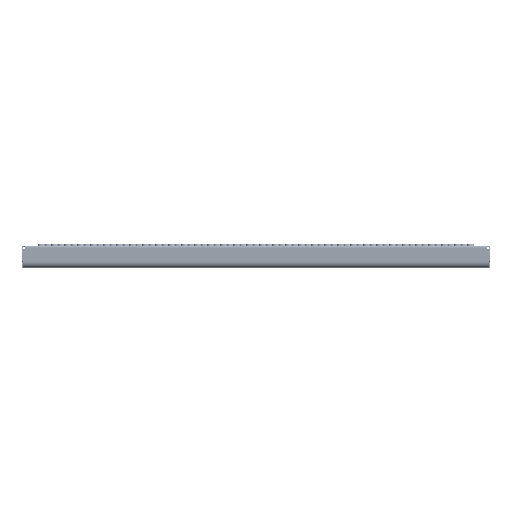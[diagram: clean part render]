
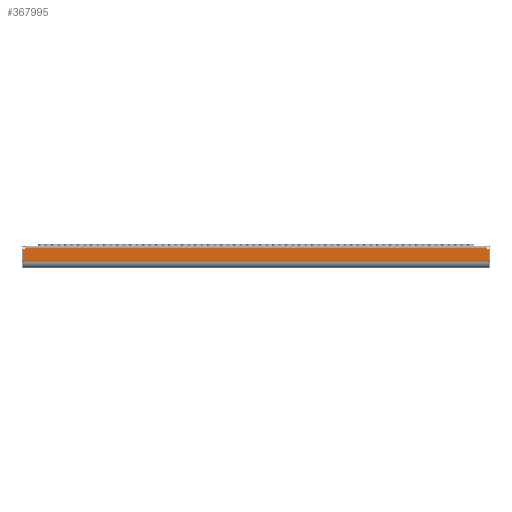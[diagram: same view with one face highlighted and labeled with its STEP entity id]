
A CAD part, top view. The second image highlights one B-rep face of the part: STEP entity #367995.
In plain terms, the highlighted planar face has unit normal (0, 0, 1).
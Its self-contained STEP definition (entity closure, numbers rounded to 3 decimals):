
#4417 = CARTESIAN_POINT ( 'NONE',  ( 444.302, -4., 125. ) ) ;
#9744 = DIRECTION ( 'NONE',  ( 0., 0., 1. ) ) ;
#11573 = ORIENTED_EDGE ( 'NONE', *, *, #324710, .T. ) ;
#12431 = DIRECTION ( 'NONE',  ( 0., 0., -1. ) ) ;
#12515 = VECTOR ( 'NONE', #47345, 1000. ) ;
#15731 = EDGE_CURVE ( 'NONE', #126914, #154343, #389230, .T. ) ;
#17930 = DIRECTION ( 'NONE',  ( 0., -1., 0. ) ) ;
#34323 = DIRECTION ( 'NONE',  ( 1., 0., 0. ) ) ;
#40289 = CARTESIAN_POINT ( 'NONE',  ( 449., -2.288, 125. ) ) ;
#40667 = FACE_OUTER_BOUND ( 'NONE', #195369, .T. ) ;
#42560 = CARTESIAN_POINT ( 'NONE',  ( -447.99, -7.185, 125. ) ) ;
#42715 = CARTESIAN_POINT ( 'NONE',  ( -447.99, -7.185, 125. ) ) ;
#47345 = DIRECTION ( 'NONE',  ( 0., 1., 0. ) ) ;
#59427 = AXIS2_PLACEMENT_3D ( 'NONE', #40289, #347199, #165891 ) ;
#78746 = AXIS2_PLACEMENT_3D ( 'NONE', #362465, #12431, #109215 ) ;
#109215 = DIRECTION ( 'NONE',  ( 0., -1., 0. ) ) ;
#114083 = AXIS2_PLACEMENT_3D ( 'NONE', #291878, #9744, #261038 ) ;
#126914 = VERTEX_POINT ( 'NONE', #177863 ) ;
#128068 = EDGE_CURVE ( 'NONE', #193826, #162172, #291319, .T. ) ;
#130814 = EDGE_CURVE ( 'NONE', #154343, #162172, #151694, .T. ) ;
#132798 = DIRECTION ( 'NONE',  ( 1., 0., 0. ) ) ;
#136804 = EDGE_CURVE ( 'NONE', #193826, #319216, #256297, .T. ) ;
#138318 = CARTESIAN_POINT ( 'NONE',  ( 447.99, -7.185, 125. ) ) ;
#147959 = CARTESIAN_POINT ( 'NONE',  ( -444.302, -4., 125. ) ) ;
#151694 = CIRCLE ( 'NONE', #59427, 5. ) ;
#154343 = VERTEX_POINT ( 'NONE', #138318 ) ;
#162172 = VERTEX_POINT ( 'NONE', #4417 ) ;
#165891 = DIRECTION ( 'NONE',  ( 0., -1., 0. ) ) ;
#170375 = LINE ( 'NONE', #42715, #210572 ) ;
#173049 = VERTEX_POINT ( 'NONE', #182108 ) ;
#177863 = CARTESIAN_POINT ( 'NONE',  ( 447.99, -31.998, 125. ) ) ;
#182108 = CARTESIAN_POINT ( 'NONE',  ( -447.99, -31.998, 125. ) ) ;
#193826 = VERTEX_POINT ( 'NONE', #147959 ) ;
#195369 = EDGE_LOOP ( 'NONE', ( #11573, #246011, #283484, #262614, #406390, #219371 ) ) ;
#210572 = VECTOR ( 'NONE', #17930, 1000. ) ;
#219371 = ORIENTED_EDGE ( 'NONE', *, *, #287427, .T. ) ;
#226072 = PLANE ( 'NONE',  #114083 ) ;
#246011 = ORIENTED_EDGE ( 'NONE', *, *, #15731, .T. ) ;
#255896 = VECTOR ( 'NONE', #34323, 1000. ) ;
#256297 = CIRCLE ( 'NONE', #78746, 5. ) ;
#261038 = DIRECTION ( 'NONE',  ( 0., -1., 0. ) ) ;
#262614 = ORIENTED_EDGE ( 'NONE', *, *, #128068, .F. ) ;
#267696 = CARTESIAN_POINT ( 'NONE',  ( 447.99, -7.185, 125. ) ) ;
#283484 = ORIENTED_EDGE ( 'NONE', *, *, #130814, .T. ) ;
#287427 = EDGE_CURVE ( 'NONE', #319216, #173049, #170375, .T. ) ;
#291319 = LINE ( 'NONE', #322236, #383886 ) ;
#291620 = LINE ( 'NONE', #349375, #255896 ) ;
#291878 = CARTESIAN_POINT ( 'NONE',  ( -449., 245.712, 125. ) ) ;
#319216 = VERTEX_POINT ( 'NONE', #42560 ) ;
#322236 = CARTESIAN_POINT ( 'NONE',  ( -449., -4., 125. ) ) ;
#324710 = EDGE_CURVE ( 'NONE', #173049, #126914, #291620, .T. ) ;
#347199 = DIRECTION ( 'NONE',  ( 0., 0., -1. ) ) ;
#349375 = CARTESIAN_POINT ( 'NONE',  ( -447.99, -31.998, 125. ) ) ;
#362465 = CARTESIAN_POINT ( 'NONE',  ( -449., -2.288, 125. ) ) ;
#367995 = ADVANCED_FACE ( 'NONE', ( #40667 ), #226072, .T. ) ;
#383886 = VECTOR ( 'NONE', #132798, 1000. ) ;
#389230 = LINE ( 'NONE', #267696, #12515 ) ;
#406390 = ORIENTED_EDGE ( 'NONE', *, *, #136804, .T. ) ;
